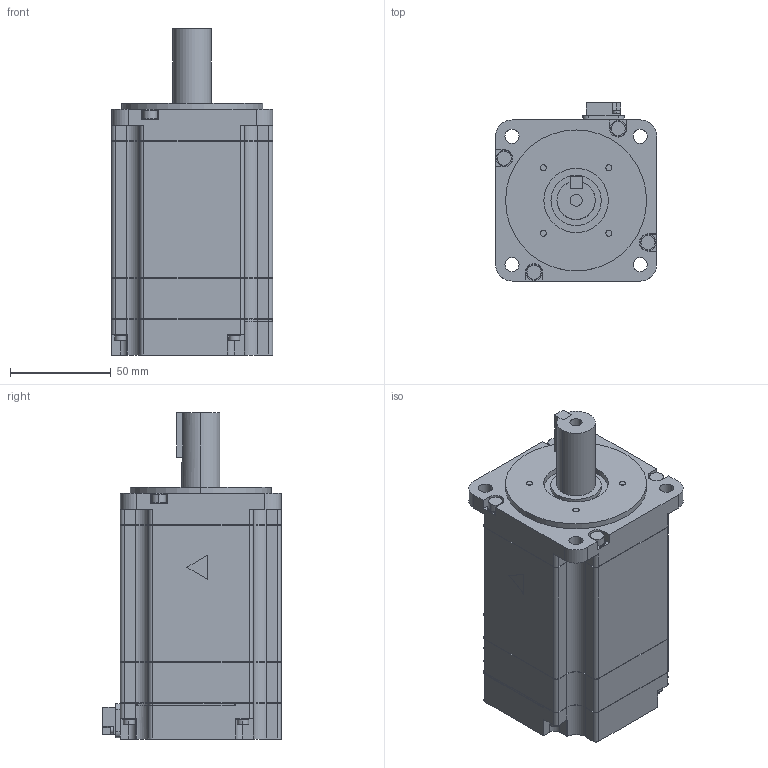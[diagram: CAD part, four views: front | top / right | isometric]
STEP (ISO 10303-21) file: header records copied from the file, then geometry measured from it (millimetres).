
FILE_DESCRIPTION (( 'STEP AP203' ), '1' );
FILE_NAME ('sgm7a_10a_a61.STEP', '2016-02-19T01:38:11', ( '匠エンジニアリング山之内' ), ( 'TAKUMI-Engniaring' ), 'SwSTEP 2.0', 'SolidWorks 2006303', '' );
FILE_SCHEMA (( 'CONFIG_CONTROL_DESIGN' ));
Length unit declared in the file: millimetre
Products named in the file (3): sgm7a_10a_a61_base; sgm7a_10a_a61; sgm7a_10a_a61_key
Assembly tree (2 placements, depth 2):
  sgm7a_10a_a61
    sgm7a_10a_a61_base
    sgm7a_10a_a61_key
Bounding box: 80.1 x 88.8 x 162.1 mm (x, y, z)
Volume: 710670.2 mm3; surface area: 58602.6 mm2
Topology: 2 solids, 2 shells, 428 faces, 1116 edges, 740 vertices
Faces by surface type: plane 239, cylinder 189
Entity records: 13554 total; most frequent: DIRECTION 2363, CARTESIAN_POINT 2319, ORIENTED_EDGE 2232, EDGE_CURVE 1116, AXIS2_PLACEMENT_3D 816, VERTEX_POINT 740, VECTOR 731, LINE 731
